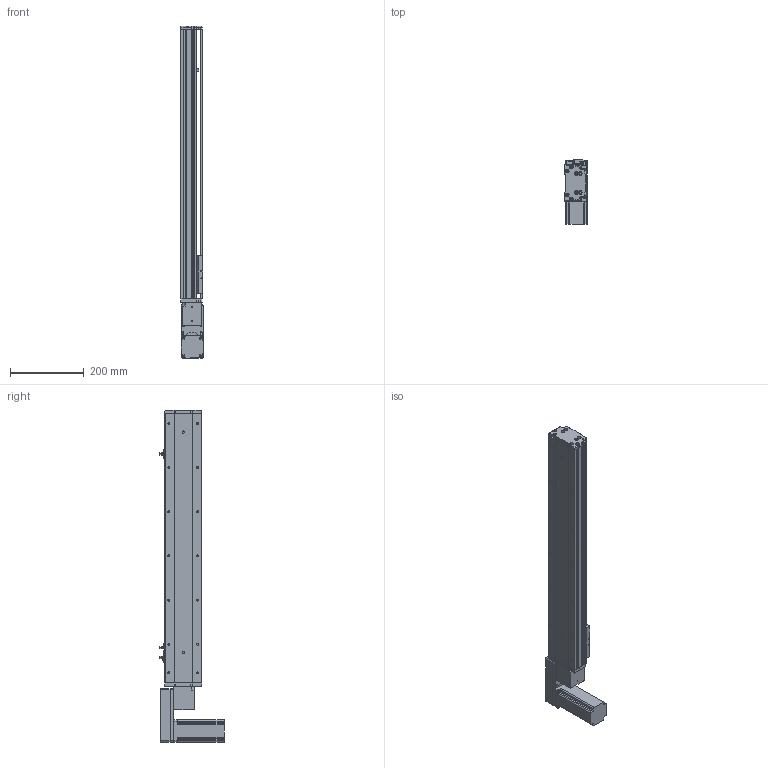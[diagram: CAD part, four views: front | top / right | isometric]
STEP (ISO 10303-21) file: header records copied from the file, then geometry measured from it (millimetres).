
FILE_DESCRIPTION (( 'STEP AP214' ), '1' );
FILE_NAME ('KSD100B-S550-MLB-CM.STEP', '2019-11-08T06:57:33', ( '微软用户' ), ( '微软中国' ), 'SwSTEP 2.0', 'SolidWorks 2014', '' );
FILE_SCHEMA (( 'AUTOMOTIVE_DESIGN' ));
Length unit declared in the file: millimetre
Products named in the file (12): KSD100B-S550-MLB-CM; 100宽底板半封闭同步带550行程; 100遵傷啣肮祭湍; 100宽马达安装板同步带; 100宽同步带安装板半封闭; 100宽马达安装板同步带左; 100宽防尘板550行程-同步带; 覜茼え100遵圉猾敕; U倰嫖萇EEㄜSX672; 台达ECMA－C20604AS伺服电机; 100宽马达安装板连板上下折丝杆同步带; 悵誘欶奻狟殏
Assembly tree (13 placements, depth 2):
  KSD100B-S550-MLB-CM
    100宽底板半封闭同步带550行程
    100遵傷啣肮祭湍
    100宽马达安装板同步带
    100宽同步带安装板半封闭
    100宽马达安装板同步带左
    100宽防尘板550行程-同步带
    覜茼え100遵圉猾敕
    U倰嫖萇EEㄜSX672  x3
    台达ECMA－C20604AS伺服电机
    100宽马达安装板连板上下折丝杆同步带
    悵誘欶奻狟殏
Bounding box: 61 x 174.7 x 903 mm (x, y, z)
Volume: 2100919.9 mm3; surface area: 671819.4 mm2
Topology: 14 solids, 14 shells, 1351 faces, 3786 edges, 2427 vertices
Faces by surface type: cylinder 665, plane 579, cone 107
Entity records: 47119 total; most frequent: CARTESIAN_POINT 8866, DIRECTION 6530, ORIENTED_EDGE 6264, EDGE_CURVE 3132, AXIS2_PLACEMENT_3D 2373, VERTEX_POINT 2051, LINE 1784, VECTOR 1784
